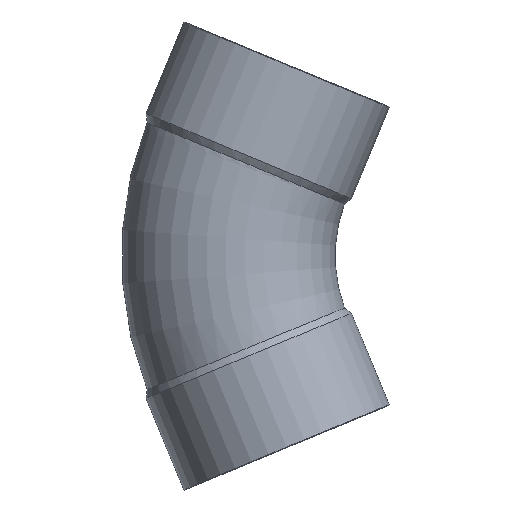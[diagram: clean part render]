
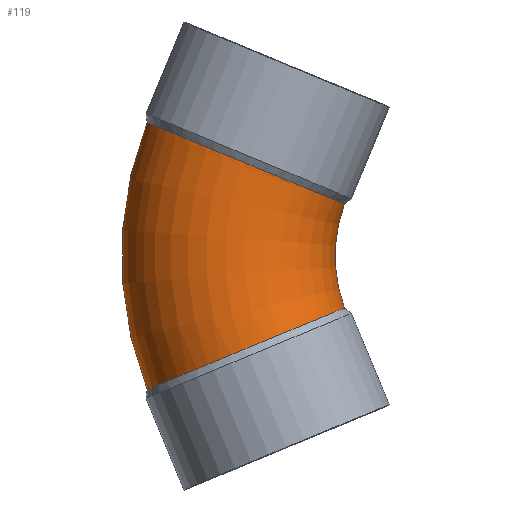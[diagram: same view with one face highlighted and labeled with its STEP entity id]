
A CAD part, front view. The second image highlights one B-rep face of the part: STEP entity #119.
In plain terms, the highlighted toroidal (fillet/blend) face has major radius 91.32 mm and minor radius 38.05 mm.
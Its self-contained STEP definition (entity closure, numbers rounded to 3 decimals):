
#44=CARTESIAN_POINT('',(4.435,0.,0.));
#45=DIRECTION('',(0.,1.0,0.));
#46=DIRECTION('',(-0.383,0.,0.924));
#47=AXIS2_PLACEMENT_3D('',#44,#45,#46);
#48=TOROIDAL_SURFACE('',#47,91.32,38.05);
#49=CARTESIAN_POINT('',(-115.858,0.,-47.604));
#50=VERTEX_POINT('',#49);
#51=CARTESIAN_POINT('',(-115.858,0.,47.604));
#52=VERTEX_POINT('',#51);
#53=CARTESIAN_POINT('',(4.435,0.,0.));
#54=DIRECTION('',(0.0,1.0,0.0));
#55=DIRECTION('',(0.0,0.0,1.0));
#56=AXIS2_PLACEMENT_3D('',#53,#54,#55);
#57=CIRCLE('',#56,129.37);
#58=EDGE_CURVE('',#50,#52,#57,.T.);
#59=ORIENTED_EDGE('',*,*,#58,.F.);
#60=CARTESIAN_POINT('',(-45.498,0.,-18.558));
#61=VERTEX_POINT('',#60);
#62=CARTESIAN_POINT('',(-115.858,0.,-47.604));
#63=CARTESIAN_POINT('',(-115.858,-2.805,-47.604));
#64=CARTESIAN_POINT('',(-115.572,-5.601,-47.485));
#65=CARTESIAN_POINT('',(-114.435,-11.075,-47.015));
#66=CARTESIAN_POINT('',(-113.589,-13.736,-46.665));
#67=CARTESIAN_POINT('',(-110.523,-20.75,-45.397));
#68=CARTESIAN_POINT('',(-107.775,-24.772,-44.261));
#69=CARTESIAN_POINT('',(-101.008,-31.451,-41.463));
#70=CARTESIAN_POINT('',(-97.053,-34.043,-39.828));
#71=CARTESIAN_POINT('',(-88.448,-37.442,-36.272));
#72=CARTESIAN_POINT('',(-83.879,-38.216,-34.384));
#73=CARTESIAN_POINT('',(-74.722,-37.825,-30.602));
#74=CARTESIAN_POINT('',(-70.222,-36.664,-28.745));
#75=CARTESIAN_POINT('',(-61.887,-32.541,-25.307));
#76=CARTESIAN_POINT('',(-58.132,-29.619,-23.759));
#77=CARTESIAN_POINT('',(-51.869,-22.385,-21.179));
#78=CARTESIAN_POINT('',(-49.421,-18.143,-20.171));
#79=CARTESIAN_POINT('',(-46.275,-9.194,-18.877));
#80=CARTESIAN_POINT('',(-45.498,-4.615,-18.558));
#81=CARTESIAN_POINT('',(-45.498,0.,-18.558));
#82=B_SPLINE_CURVE_WITH_KNOTS('',3,(#62,#63,#64,#65,#66,#67,#68,#69,#70,#71,#72,#73,#74,#75,#76,#77,#78,#79,#80,#81),.UNSPECIFIED.,.F.,.U.,(4,2,2,2,2,2,2,2,2,4),(-23.982,-23.141,-22.299,-20.813,-19.326,-17.839,-16.352,-14.865,-13.379,-11.993),.UNSPECIFIED.);
#83=EDGE_CURVE('',#50,#61,#82,.T.);
#84=ORIENTED_EDGE('',*,*,#83,.T.);
#85=CARTESIAN_POINT('',(-45.498,0.,18.558));
#86=VERTEX_POINT('',#85);
#87=CARTESIAN_POINT('',(4.435,0.,0.));
#88=DIRECTION('',(0.0,-1.0,0.0));
#89=DIRECTION('',(0.0,0.0,1.0));
#90=AXIS2_PLACEMENT_3D('',#87,#88,#89);
#91=CIRCLE('',#90,53.27);
#92=EDGE_CURVE('',#86,#61,#91,.T.);
#93=ORIENTED_EDGE('',*,*,#92,.F.);
#94=CARTESIAN_POINT('',(-45.498,0.,18.558));
#95=CARTESIAN_POINT('',(-45.498,-0.331,18.558));
#96=CARTESIAN_POINT('',(-45.502,-0.663,18.559));
#97=CARTESIAN_POINT('',(-45.63,-5.947,18.612));
#98=CARTESIAN_POINT('',(-46.643,-10.826,19.029));
#99=CARTESIAN_POINT('',(-50.344,-19.892,20.551));
#100=CARTESIAN_POINT('',(-52.997,-23.992,21.643));
#101=CARTESIAN_POINT('',(-59.605,-30.862,24.366));
#102=CARTESIAN_POINT('',(-63.498,-33.566,25.971));
#103=CARTESIAN_POINT('',(-72.022,-37.209,29.488));
#104=CARTESIAN_POINT('',(-76.571,-38.112,31.366));
#105=CARTESIAN_POINT('',(-85.733,-37.981,35.15));
#106=CARTESIAN_POINT('',(-90.257,-36.949,37.019));
#107=CARTESIAN_POINT('',(-98.684,-33.066,40.502));
#108=CARTESIAN_POINT('',(-102.507,-30.253,42.082));
#109=CARTESIAN_POINT('',(-108.939,-23.2,44.742));
#110=CARTESIAN_POINT('',(-111.488,-19.028,45.796));
#111=CARTESIAN_POINT('',(-114.964,-9.861,47.234));
#112=CARTESIAN_POINT('',(-115.858,-4.954,47.604));
#113=CARTESIAN_POINT('',(-115.858,0.,47.604));
#114=B_SPLINE_CURVE_WITH_KNOTS('',3,(#94,#95,#96,#97,#98,#99,#100,#101,#102,#103,#104,#105,#106,#107,#108,#109,#110,#111,#112,#113),.UNSPECIFIED.,.F.,.U.,(4,2,2,2,2,2,2,2,2,4),(-11.993,-11.893,-10.407,-8.92,-7.433,-5.946,-4.459,-2.973,-1.486,0.0),.UNSPECIFIED.);
#115=EDGE_CURVE('',#86,#52,#114,.T.);
#116=ORIENTED_EDGE('',*,*,#115,.T.);
#117=EDGE_LOOP('',(#59,#84,#93,#116));
#118=FACE_OUTER_BOUND('',#117,.T.);
#119=ADVANCED_FACE('',(#118),#48,.T.);
